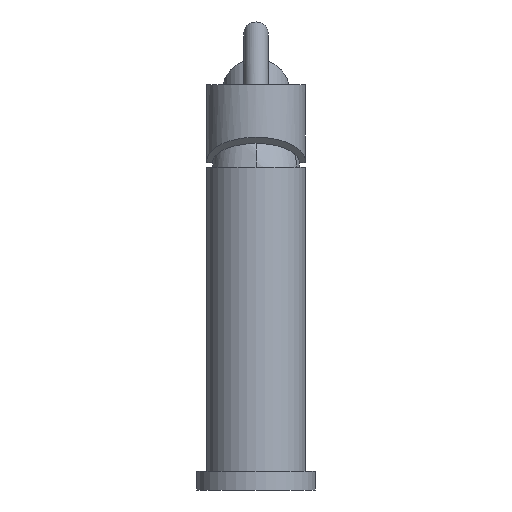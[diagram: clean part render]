
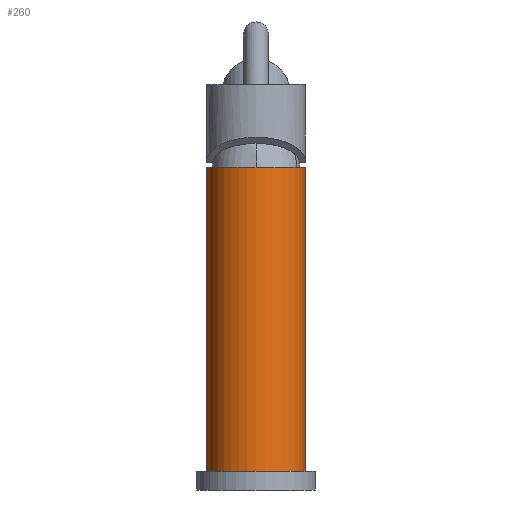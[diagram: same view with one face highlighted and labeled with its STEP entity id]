
A CAD part, left-side view. The second image highlights one B-rep face of the part: STEP entity #260.
In plain terms, the highlighted cylindrical face has radius 22.4 mm (diameter 44.8 mm), a full revolution.
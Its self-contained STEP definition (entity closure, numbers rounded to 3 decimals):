
#36=CIRCLE('',#3493,22.4);
#37=CIRCLE('',#3494,22.4);
#58=CYLINDRICAL_SURFACE('',#3479,22.4);
#260=ADVANCED_FACE('',(#455,#285),#58,.T.);
#285=FACE_BOUND('',#649,.T.);
#455=FACE_OUTER_BOUND('',#648,.T.);
#648=EDGE_LOOP('',(#1567,#1568,#1569,#1570));
#649=EDGE_LOOP('',(#1571,#1572));
#1567=ORIENTED_EDGE('',*,*,#2073,.F.);
#1568=ORIENTED_EDGE('',*,*,#2075,.T.);
#1569=ORIENTED_EDGE('',*,*,#2074,.F.);
#1570=ORIENTED_EDGE('',*,*,#2075,.F.);
#1571=ORIENTED_EDGE('',*,*,#2085,.T.);
#1572=ORIENTED_EDGE('',*,*,#2086,.T.);
#2073=EDGE_CURVE('',#2857,#2857,#36,.T.);
#2074=EDGE_CURVE('',#2858,#2858,#37,.T.);
#2075=EDGE_CURVE('',#2857,#2858,#2544,.T.);
#2085=EDGE_CURVE('',#2862,#2861,#2546,.T.);
#2086=EDGE_CURVE('',#2861,#2862,#2547,.T.);
#2544=B_SPLINE_CURVE_WITH_KNOTS('',1,(#5422,#5423),.UNSPECIFIED.,.F.,.F.,
(2,2),(13.92,151.92),.UNSPECIFIED.);
#2546=B_SPLINE_CURVE_WITH_KNOTS('',3,(#5446,#5447,#5448,#5449,#5450,#5451,
#5452,#5453,#5454,#5455,#5456,#5457,#5458,#5459,#5460,#5461,#5462,#5463,
#5464,#5465,#5466,#5467,#5468,#5469,#5470,#5471),.UNSPECIFIED.,.F.,.F.,
(4,2,2,2,2,2,2,2,2,2,2,2,4),(-51.58,-48.815,-46.05,
-40.52,-37.3,-34.079,-30.859,
-27.638,-20.425,-13.212,-6.606,
-3.303,0.),.UNSPECIFIED.);
#2547=B_SPLINE_CURVE_WITH_KNOTS('',3,(#5472,#5473,#5474,#5475,#5476,#5477,
#5478,#5479,#5480,#5481,#5482,#5483,#5484,#5485,#5486,#5487,#5488,#5489,
#5490,#5491,#5492,#5493,#5494,#5495,#5496,#5497,#5498),.UNSPECIFIED.,.F.,
 .F.,(4,2,2,2,2,3,2,2,2,2,2,2,4),(-51.578,-48.2,-44.823,
-38.067,-30.999,-23.932,-20.712,
-17.493,-14.274,-11.055,-5.527,
-2.764,0.),.UNSPECIFIED.);
#2857=VERTEX_POINT('',#5330);
#2858=VERTEX_POINT('',#5331);
#2861=VERTEX_POINT('',#5334);
#2862=VERTEX_POINT('',#5335);
#3479=AXIS2_PLACEMENT_3D('',#5204,#3689,$);
#3493=AXIS2_PLACEMENT_3D($,#5420,#3710,#3711);
#3494=AXIS2_PLACEMENT_3D($,#5421,#3712,#3713);
#3689=DIRECTION('',(0.,0.,1.));
#3710=DIRECTION('',(0.,0.,-1.));
#3711=DIRECTION('',(-1.,0.,0.));
#3712=DIRECTION('',(0.,0.,1.));
#3713=DIRECTION('',(-1.,0.,0.));
#5204=CARTESIAN_POINT('',(0.,0.,51.8));
#5330=CARTESIAN_POINT('',(-22.4,0.,-17.2));
#5331=CARTESIAN_POINT('',(-22.4,0.,120.8));
#5334=CARTESIAN_POINT('',(22.4,0.,80.669));
#5335=CARTESIAN_POINT('',(22.4,0.,47.568));
#5420=CARTESIAN_POINT('',(0.,0.,-17.2));
#5421=CARTESIAN_POINT('',(0.,0.,120.8));
#5422=CARTESIAN_POINT('',(-22.4,0.,-17.2));
#5423=CARTESIAN_POINT('',(-22.4,0.,120.8));
#5446=CARTESIAN_POINT('',(22.4,0.,47.568));
#5447=CARTESIAN_POINT('',(22.4,-0.886,47.568));
#5448=CARTESIAN_POINT('',(22.346,-1.803,47.631));
#5449=CARTESIAN_POINT('',(22.123,-3.631,47.898));
#5450=CARTESIAN_POINT('',(21.953,-4.542,48.102));
#5451=CARTESIAN_POINT('',(21.297,-7.173,48.921));
#5452=CARTESIAN_POINT('',(20.656,-8.789,49.752));
#5453=CARTESIAN_POINT('',(19.613,-10.854,51.339));
#5454=CARTESIAN_POINT('',(19.197,-11.567,52.021));
#5455=CARTESIAN_POINT('',(18.387,-12.815,53.564));
#5456=CARTESIAN_POINT('',(17.995,-13.35,54.426));
#5457=CARTESIAN_POINT('',(17.335,-14.196,56.283));
#5458=CARTESIAN_POINT('',(17.068,-14.509,57.283));
#5459=CARTESIAN_POINT('',(16.718,-14.911,59.341));
#5460=CARTESIAN_POINT('',(16.636,-15.,60.398));
#5461=CARTESIAN_POINT('',(16.636,-15.,63.742));
#5462=CARTESIAN_POINT('',(17.05,-14.561,66.147));
#5463=CARTESIAN_POINT('',(18.252,-13.022,70.677));
#5464=CARTESIAN_POINT('',(19.026,-11.915,72.805));
#5465=CARTESIAN_POINT('',(20.374,-9.408,76.199));
#5466=CARTESIAN_POINT('',(21.064,-7.85,77.768));
#5467=CARTESIAN_POINT('',(21.828,-5.119,79.447));
#5468=CARTESIAN_POINT('',(22.037,-4.143,79.897));
#5469=CARTESIAN_POINT('',(22.324,-2.113,80.508));
#5470=CARTESIAN_POINT('',(22.4,-1.059,80.669));
#5471=CARTESIAN_POINT('',(22.4,0.,80.669));
#5472=CARTESIAN_POINT('',(22.4,0.,80.669));
#5473=CARTESIAN_POINT('',(22.4,1.083,80.669));
#5474=CARTESIAN_POINT('',(22.32,2.158,80.501));
#5475=CARTESIAN_POINT('',(22.023,4.225,79.866));
#5476=CARTESIAN_POINT('',(21.805,5.217,79.399));
#5477=CARTESIAN_POINT('',(21.016,7.987,77.659));
#5478=CARTESIAN_POINT('',(20.304,9.56,76.037));
#5479=CARTESIAN_POINT('',(18.955,12.022,72.609));
#5480=CARTESIAN_POINT('',(18.201,13.092,70.513));
#5481=CARTESIAN_POINT('',(17.034,14.577,66.057));
#5482=CARTESIAN_POINT('',(16.636,15.,63.696));
#5483=CARTESIAN_POINT('',(16.636,15.,61.431));
#5484=CARTESIAN_POINT('',(16.636,15.,60.398));
#5485=CARTESIAN_POINT('',(16.718,14.911,59.341));
#5486=CARTESIAN_POINT('',(17.068,14.509,57.283));
#5487=CARTESIAN_POINT('',(17.335,14.196,56.283));
#5488=CARTESIAN_POINT('',(17.995,13.35,54.426));
#5489=CARTESIAN_POINT('',(18.387,12.815,53.564));
#5490=CARTESIAN_POINT('',(19.197,11.567,52.021));
#5491=CARTESIAN_POINT('',(19.613,10.854,51.339));
#5492=CARTESIAN_POINT('',(20.656,8.789,49.752));
#5493=CARTESIAN_POINT('',(21.297,7.173,48.921));
#5494=CARTESIAN_POINT('',(21.953,4.542,48.102));
#5495=CARTESIAN_POINT('',(22.123,3.631,47.898));
#5496=CARTESIAN_POINT('',(22.346,1.803,47.631));
#5497=CARTESIAN_POINT('',(22.4,0.886,47.568));
#5498=CARTESIAN_POINT('',(22.4,0.,47.568));
